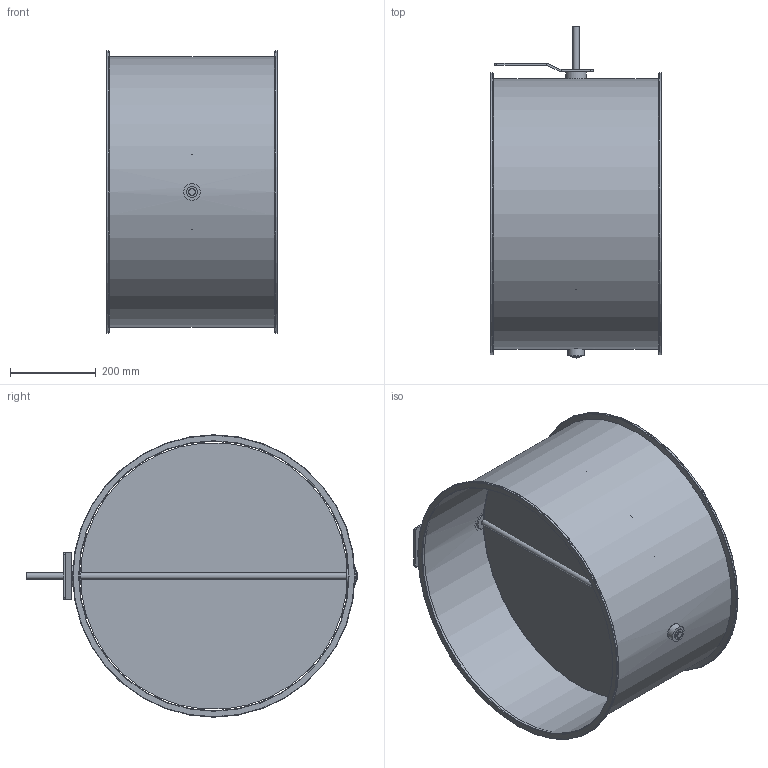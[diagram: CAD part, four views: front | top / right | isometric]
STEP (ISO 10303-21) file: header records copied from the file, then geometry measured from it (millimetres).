
FILE_DESCRIPTION(/* description */ (''),/* implementation_level */ '2;1');
FILE_NAME(/* name */ 'EA113-80B__630_L400_Belimo_Typen_NF_SF.stp',/* time_stamp */ '2017-12-07T10:36:46+01:00',/* author */ (''),/* organization */ (''),/* preprocessor_version */ 'ST-DEVELOPER v11',/* originating_system */ 'SIEMENS UGS NX 6.0',/* authorisation */ '');
FILE_SCHEMA (('CONFIG_CONTROL_DESIGN'));
Length unit declared in the file: millimetre
Products named in the file (1): gars5544kx6t
Bounding box: 400 x 776 x 660 mm (x, y, z)
Volume: 1866733.1 mm3; surface area: 2416584.3 mm2
Topology: 8 solids, 8 shells, 79 faces, 167 edges, 106 vertices
Faces by surface type: plane 36, cylinder 35, torus 6, cone 2
Full cylindrical faces by diameter (mm): 6.1 x7, 15 x3, 25 x3, 25.85 x2, 26 x2, 38 x3, 49 x1, 630 x1, 632 x1, 660 x2
Entity records: 2062 total; most frequent: CARTESIAN_POINT 368, DIRECTION 352, ORIENTED_EDGE 248, AXIS2_PLACEMENT_3D 152, EDGE_LOOP 144, EDGE_CURVE 124, FACE_BOUND 114, VERTEX_POINT 96
